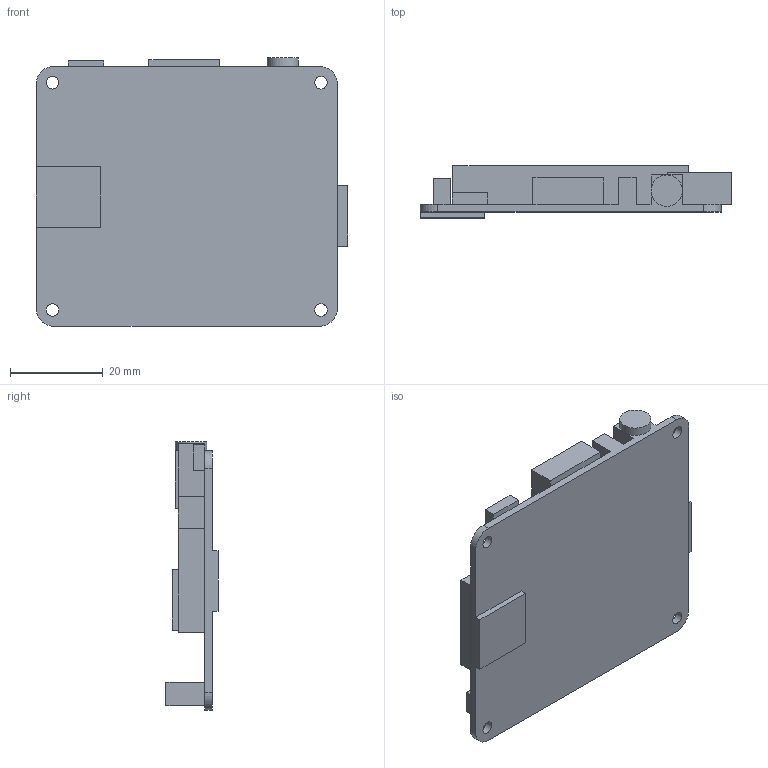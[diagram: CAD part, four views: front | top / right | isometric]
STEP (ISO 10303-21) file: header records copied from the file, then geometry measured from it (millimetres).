
FILE_DESCRIPTION (( 'STEP AP203' ), '1' );
FILE_NAME ('Rpi A+.step', '2015-03-14T23:36:04', ( '' ), ( '' ), 'SwSTEP 2.0', 'SolidWorks 2013', '' );
FILE_SCHEMA (( 'CONFIG_CONTROL_DESIGN' ));
Length unit declared in the file: inch
Products named in the file (1): Rpi A+
Bounding box: 67.29 x 11.25 x 57.91 mm (x, y, z)
Volume: 12124 mm3; surface area: 10404.5 mm2
Topology: 1 solids, 1 shells, 58 faces, 152 edges, 98 vertices
Faces by surface type: plane 49, cylinder 9
Full cylindrical faces by diameter (mm): 2.705 x4, 6.782 x1
Entity records: 1826 total; most frequent: CARTESIAN_POINT 304, ORIENTED_EDGE 294, DIRECTION 285, EDGE_CURVE 147, LINE 127, VECTOR 127, VERTEX_POINT 98, AXIS2_PLACEMENT_3D 79
